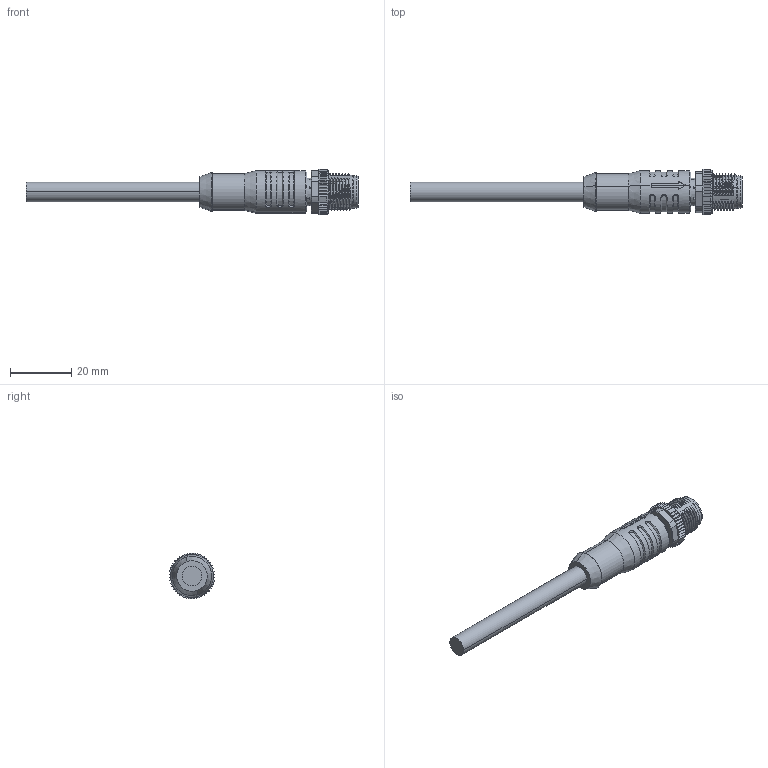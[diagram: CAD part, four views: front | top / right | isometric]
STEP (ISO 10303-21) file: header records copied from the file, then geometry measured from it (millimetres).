
FILE_DESCRIPTION (( 'STEP AP203' ), '1' );
FILE_NAME ('64S121-XXX.STEP', '2023-09-16T07:47:08', ( 'ADMIN' ), ( '' ), 'SwSTEP 2.0', 'SolidWorks 2016', '' );
FILE_SCHEMA (( 'CONFIG_CONTROL_DESIGN' ));
Products named in the file (1): 64S121-XXX
Bounding box: 108.8 x 14.98 x 14.98 mm (x, y, z)
Volume: 7837.7 mm3; surface area: 5295.8 mm2
Topology: 1 solids, 8 shells, 968 faces, 2983 edges, 1970 vertices
Faces by surface type: plane 445, cylinder 259, bspline 143, cone 101, torus 18, sphere 2
Entity records: 53754 total; most frequent: CARTESIAN_POINT 29426, ORIENTED_EDGE 5956, DIRECTION 3948, EDGE_CURVE 2978, VERTEX_POINT 1968, AXIS2_PLACEMENT_3D 1369, LINE 1210, VECTOR 1210
